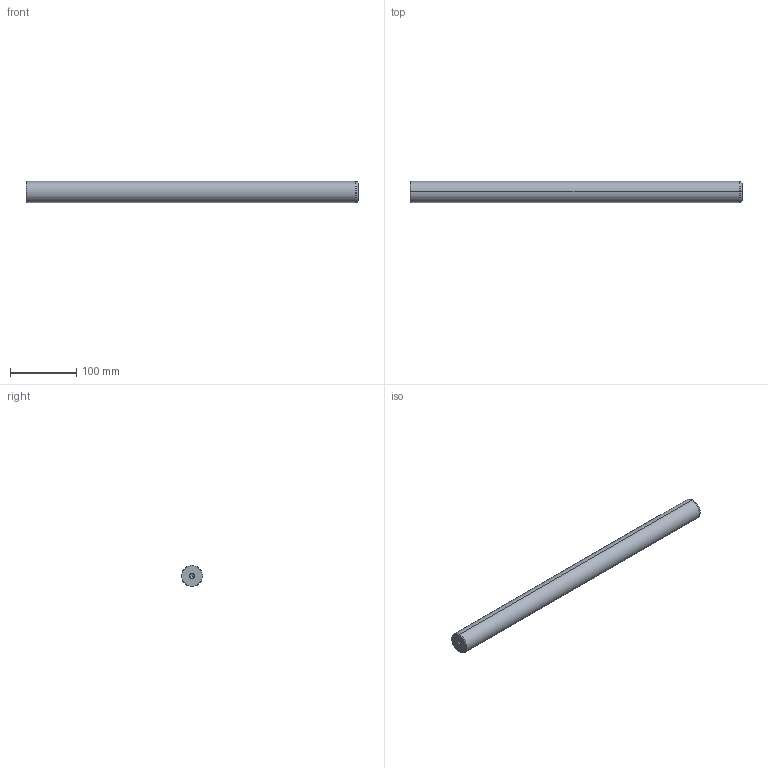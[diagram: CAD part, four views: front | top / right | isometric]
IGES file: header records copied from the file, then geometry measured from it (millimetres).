
Start section: START RECORD GO HERE.
Global section: file name: 720-32x500.igs; native system: DASSAULT SYSTEMES CATIA V5 R20 - www.3ds.com; preprocessor: CATIA Version 5 Release 20 ; author: Utente; organization: NB04-ASUS; date: 20210101.130916; units: millimetre
Bounding box: 500 x 32 x 32 mm (x, y, z)
Surface area: 52658.2 mm2 (no closed solid volume)
Topology: 0 solids, 0 shells, 22 faces, 120 edges, 116 vertices
Faces by surface type: revolution 20, plane 2
